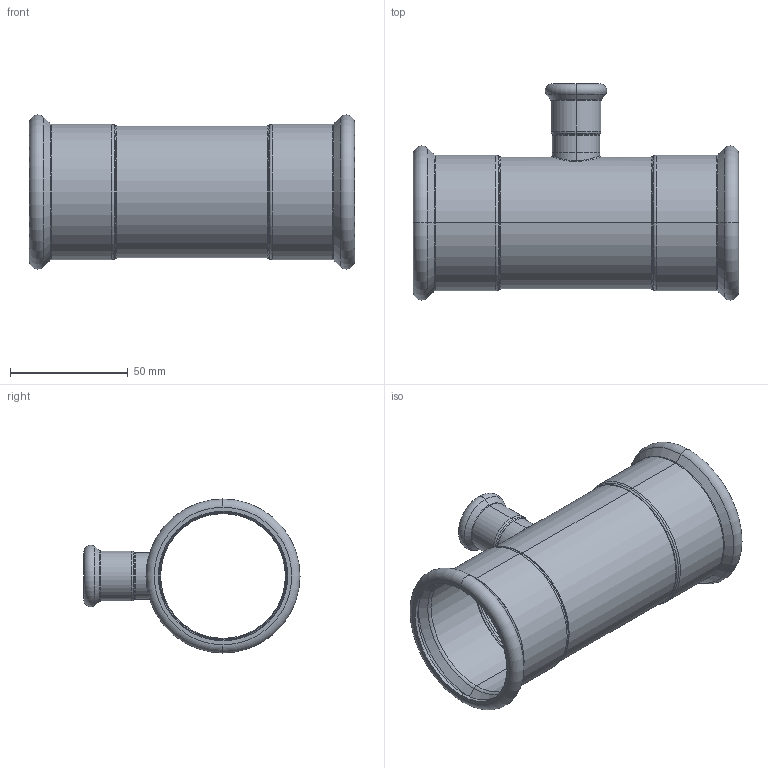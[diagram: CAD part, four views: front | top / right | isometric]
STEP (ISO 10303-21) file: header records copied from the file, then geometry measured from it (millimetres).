
FILE_DESCRIPTION (( 'STEP AP203' ), '1' );
FILE_NAME ('GDA5207.STEP', '2019-01-12T05:50:24', ( '' ), ( '' ), 'SwSTEP 2.0', 'SolidWorks 2015', '' );
FILE_SCHEMA (( 'CONFIG_CONTROL_DESIGN' ));
Length unit declared in the file: millimetre
Products named in the file (3): GDA5207; T(R)-¢ñ-54¡Á18''; T-ｉ-01-18
Assembly tree (2 placements, depth 2):
  GDA5207
    T(R)-¢ñ-54¡Á18''
    T-ｉ-01-18
Bounding box: 138 x 91.69 x 65.39 mm (x, y, z)
Volume: 41487.8 mm3; surface area: 56108.4 mm2
Topology: 2 solids, 2 shells, 114 faces, 234 edges, 128 vertices
Faces by surface type: torus 48, cylinder 30, cone 24, plane 8, bspline 4
Entity records: 4240 total; most frequent: CARTESIAN_POINT 1450, DIRECTION 620, ORIENTED_EDGE 468, AXIS2_PLACEMENT_3D 283, EDGE_CURVE 234, CIRCLE 168, VERTEX_POINT 128, EDGE_LOOP 124
